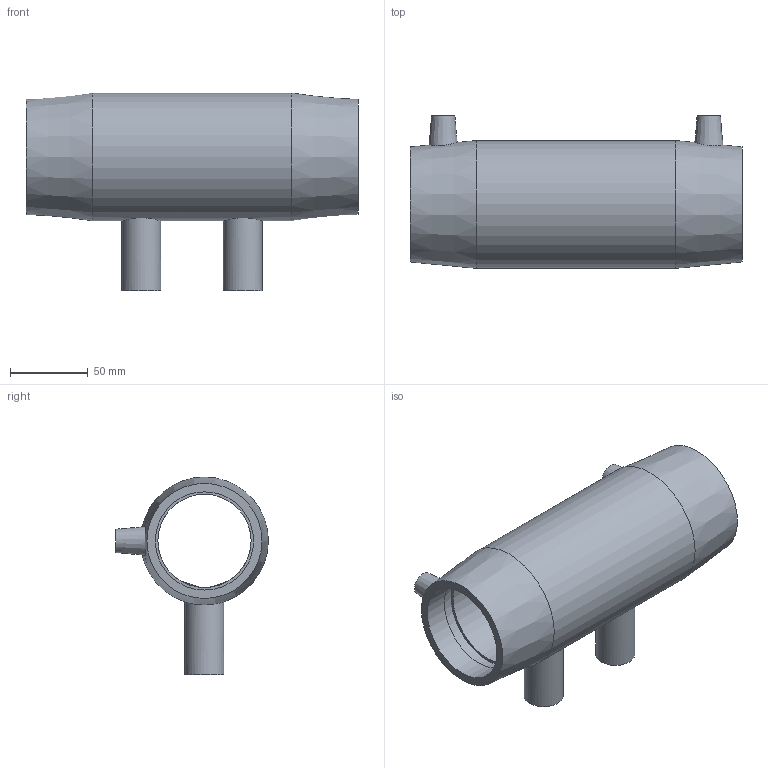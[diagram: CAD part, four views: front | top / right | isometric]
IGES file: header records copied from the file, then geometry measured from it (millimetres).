
Global section: file name: 492404063025.ipt; native system: Autodesk Inventor 2015; preprocessor: unknown; author: KIM; date: 20171106.093929; units: millimetre
Bounding box: 213 x 98 x 127 mm (x, y, z)
Volume: 459502.3 mm3; surface area: 114841.7 mm2
Topology: 1 solids, 1 shells, 34 faces, 80 edges, 58 vertices
Faces by surface type: plane 14, revolution 11, cylinder 5, cone 4
Full cylindrical faces by diameter (mm): 4 x2, 25 x2, 82 x1
